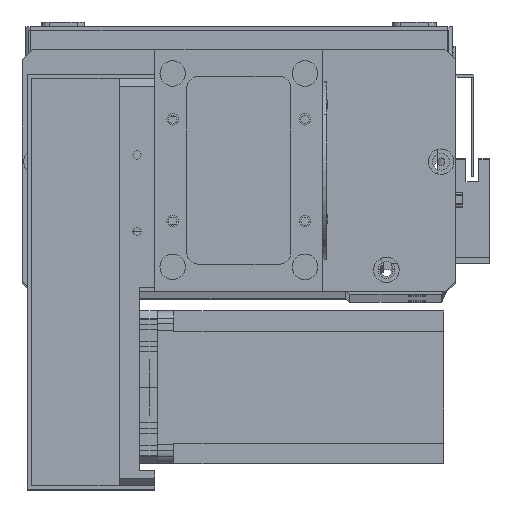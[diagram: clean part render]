
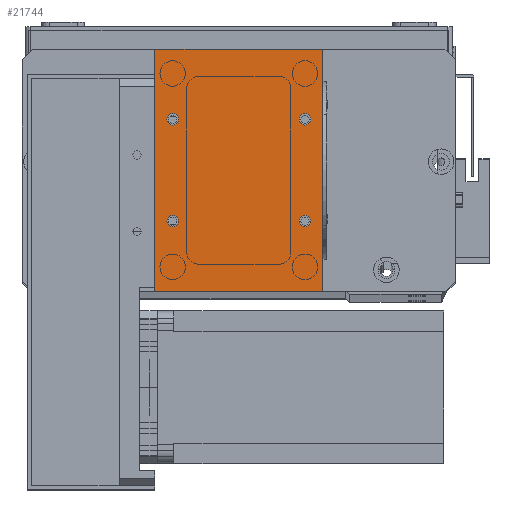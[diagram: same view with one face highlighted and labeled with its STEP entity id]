
A CAD part, top view. The second image highlights one B-rep face of the part: STEP entity #21744.
In plain terms, the highlighted planar face has unit normal (0, 0, 1).
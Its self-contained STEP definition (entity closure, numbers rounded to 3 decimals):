
#283 = CARTESIAN_POINT ( 'NONE',  ( 59., 67.5, 2. ) ) ;
#423 = ORIENTED_EDGE ( 'NONE', *, *, #30435, .F. ) ;
#766 = CARTESIAN_POINT ( 'NONE',  ( 66., 0., 2. ) ) ;
#845 = EDGE_CURVE ( 'NONE', #31968, #20353, #9542, .T. ) ;
#1021 = CARTESIAN_POINT ( 'NONE',  ( 59., 67.5, 2. ) ) ;
#1065 = CARTESIAN_POINT ( 'NONE',  ( 0., 0., 2. ) ) ;
#1559 = FACE_BOUND ( 'NONE', #3196, .T. ) ;
#1714 = DIRECTION ( 'NONE',  ( 0., 0., 1. ) ) ;
#1971 = CIRCLE ( 'NONE', #9169, 2.25 ) ;
#2863 = DIRECTION ( 'NONE',  ( 1., 0., 0. ) ) ;
#3196 = EDGE_LOOP ( 'NONE', ( #26375, #6046 ) ) ;
#3609 = DIRECTION ( 'NONE',  ( 1., 0., 0. ) ) ;
#3845 = EDGE_LOOP ( 'NONE', ( #22446, #8114, #23048, #13356 ) ) ;
#3899 = VERTEX_POINT ( 'NONE', #27298 ) ;
#4150 = VERTEX_POINT ( 'NONE', #25750 ) ;
#4294 = CARTESIAN_POINT ( 'NONE',  ( 59., 27.5, 2. ) ) ;
#4573 = PLANE ( 'NONE',  #10014 ) ;
#5170 = EDGE_CURVE ( 'NONE', #9193, #28450, #29111, .T. ) ;
#5553 = CARTESIAN_POINT ( 'NONE',  ( 66., 0., 2. ) ) ;
#5652 = AXIS2_PLACEMENT_3D ( 'NONE', #13536, #31377, #16114 ) ;
#6035 = CARTESIAN_POINT ( 'NONE',  ( 0., 0., 2. ) ) ;
#6046 = ORIENTED_EDGE ( 'NONE', *, *, #15937, .F. ) ;
#6151 = CARTESIAN_POINT ( 'NONE',  ( 61.25, 27.5, 2. ) ) ;
#6631 = DIRECTION ( 'NONE',  ( -1., 0., 0. ) ) ;
#6827 = DIRECTION ( 'NONE',  ( 1., 0., 0. ) ) ;
#6842 = EDGE_LOOP ( 'NONE', ( #15163, #423 ) ) ;
#7530 = FACE_OUTER_BOUND ( 'NONE', #3845, .T. ) ;
#7539 = DIRECTION ( 'NONE',  ( 0., 0., 1. ) ) ;
#8114 = ORIENTED_EDGE ( 'NONE', *, *, #27066, .T. ) ;
#8234 = VERTEX_POINT ( 'NONE', #5553 ) ;
#9169 = AXIS2_PLACEMENT_3D ( 'NONE', #11351, #29160, #13893 ) ;
#9193 = VERTEX_POINT ( 'NONE', #9718 ) ;
#9315 = VECTOR ( 'NONE', #15997, 1000. ) ;
#9503 = VERTEX_POINT ( 'NONE', #29532 ) ;
#9536 = EDGE_CURVE ( 'NONE', #25624, #25359, #21158, .T. ) ;
#9542 = CIRCLE ( 'NONE', #29007, 2.25 ) ;
#9685 = DIRECTION ( 'NONE',  ( 0., 0., -1. ) ) ;
#9718 = CARTESIAN_POINT ( 'NONE',  ( 66., 95., 2. ) ) ;
#10014 = AXIS2_PLACEMENT_3D ( 'NONE', #24810, #9685, #27484 ) ;
#11351 = CARTESIAN_POINT ( 'NONE',  ( 7., 67.5, 2. ) ) ;
#11475 = LINE ( 'NONE', #14336, #25856 ) ;
#11815 = ORIENTED_EDGE ( 'NONE', *, *, #31272, .F. ) ;
#12818 = CIRCLE ( 'NONE', #25498, 2.25 ) ;
#12863 = AXIS2_PLACEMENT_3D ( 'NONE', #16951, #1714, #19499 ) ;
#12988 = CARTESIAN_POINT ( 'NONE',  ( 7., 27.5, 2. ) ) ;
#13152 = ORIENTED_EDGE ( 'NONE', *, *, #15525, .F. ) ;
#13201 = ORIENTED_EDGE ( 'NONE', *, *, #31463, .F. ) ;
#13356 = ORIENTED_EDGE ( 'NONE', *, *, #5170, .T. ) ;
#13536 = CARTESIAN_POINT ( 'NONE',  ( 59., 27.5, 2. ) ) ;
#13893 = DIRECTION ( 'NONE',  ( 1., 0., 0. ) ) ;
#14260 = FACE_BOUND ( 'NONE', #27000, .T. ) ;
#14336 = CARTESIAN_POINT ( 'NONE',  ( 0., 0., 2. ) ) ;
#15163 = ORIENTED_EDGE ( 'NONE', *, *, #845, .F. ) ;
#15457 = AXIS2_PLACEMENT_3D ( 'NONE', #1021, #18837, #3609 ) ;
#15525 = EDGE_CURVE ( 'NONE', #25359, #25624, #17245, .T. ) ;
#15563 = DIRECTION ( 'NONE',  ( 1., 0., 0. ) ) ;
#15877 = FACE_BOUND ( 'NONE', #32660, .T. ) ;
#15937 = EDGE_CURVE ( 'NONE', #4150, #3899, #12818, .T. ) ;
#15997 = DIRECTION ( 'NONE',  ( 0., 1., 0. ) ) ;
#16114 = DIRECTION ( 'NONE',  ( 1., 0., 0. ) ) ;
#16951 = CARTESIAN_POINT ( 'NONE',  ( 7., 27.5, 2. ) ) ;
#17245 = CIRCLE ( 'NONE', #5652, 2.25 ) ;
#17319 = VERTEX_POINT ( 'NONE', #27699 ) ;
#17725 = LINE ( 'NONE', #6035, #23686 ) ;
#18096 = DIRECTION ( 'NONE',  ( 0., 0., 1. ) ) ;
#18316 = EDGE_CURVE ( 'NONE', #28450, #19422, #17725, .T. ) ;
#18370 = CARTESIAN_POINT ( 'NONE',  ( 9.25, 27.5, 2. ) ) ;
#18837 = DIRECTION ( 'NONE',  ( 0., 0., 1. ) ) ;
#18884 = EDGE_CURVE ( 'NONE', #8234, #9193, #29619, .T. ) ;
#19422 = VERTEX_POINT ( 'NONE', #1065 ) ;
#19499 = DIRECTION ( 'NONE',  ( 1., 0., 0. ) ) ;
#19747 = CARTESIAN_POINT ( 'NONE',  ( 0., 95., 2. ) ) ;
#20353 = VERTEX_POINT ( 'NONE', #28987 ) ;
#20897 = ORIENTED_EDGE ( 'NONE', *, *, #9536, .F. ) ;
#21148 = CARTESIAN_POINT ( 'NONE',  ( 56.75, 27.5, 2. ) ) ;
#21158 = CIRCLE ( 'NONE', #23517, 2.25 ) ;
#21212 = AXIS2_PLACEMENT_3D ( 'NONE', #283, #18096, #2863 ) ;
#21283 = DIRECTION ( 'NONE',  ( 0., -1., 0. ) ) ;
#21744 = ADVANCED_FACE ( 'NONE', ( #1559, #14260, #15877, #27837, #7530 ), #4573, .F. ) ;
#22098 = DIRECTION ( 'NONE',  ( 0., 0., 1. ) ) ;
#22446 = ORIENTED_EDGE ( 'NONE', *, *, #18316, .T. ) ;
#22804 = CARTESIAN_POINT ( 'NONE',  ( 7., 67.5, 2. ) ) ;
#23048 = ORIENTED_EDGE ( 'NONE', *, *, #18884, .T. ) ;
#23426 = CIRCLE ( 'NONE', #15457, 2.25 ) ;
#23517 = AXIS2_PLACEMENT_3D ( 'NONE', #4294, #22098, #6827 ) ;
#23686 = VECTOR ( 'NONE', #21283, 1000. ) ;
#24254 = CIRCLE ( 'NONE', #12863, 2.25 ) ;
#24810 = CARTESIAN_POINT ( 'NONE',  ( 0., 0., 2. ) ) ;
#25359 = VERTEX_POINT ( 'NONE', #6151 ) ;
#25365 = DIRECTION ( 'NONE',  ( 1., 0., 0. ) ) ;
#25498 = AXIS2_PLACEMENT_3D ( 'NONE', #22804, #7539, #25365 ) ;
#25624 = VERTEX_POINT ( 'NONE', #21148 ) ;
#25750 = CARTESIAN_POINT ( 'NONE',  ( 4.75, 67.5, 2. ) ) ;
#25856 = VECTOR ( 'NONE', #29610, 1000. ) ;
#26375 = ORIENTED_EDGE ( 'NONE', *, *, #26937, .F. ) ;
#26937 = EDGE_CURVE ( 'NONE', #3899, #4150, #1971, .T. ) ;
#27000 = EDGE_LOOP ( 'NONE', ( #13201, #11815 ) ) ;
#27066 = EDGE_CURVE ( 'NONE', #19422, #8234, #11475, .T. ) ;
#27298 = CARTESIAN_POINT ( 'NONE',  ( 9.25, 67.5, 2. ) ) ;
#27484 = DIRECTION ( 'NONE',  ( -1., 0., 0. ) ) ;
#27699 = CARTESIAN_POINT ( 'NONE',  ( 56.75, 67.5, 2. ) ) ;
#27837 = FACE_BOUND ( 'NONE', #6842, .T. ) ;
#28325 = VECTOR ( 'NONE', #6631, 1000. ) ;
#28450 = VERTEX_POINT ( 'NONE', #19747 ) ;
#28984 = CIRCLE ( 'NONE', #21212, 2.25 ) ;
#28987 = CARTESIAN_POINT ( 'NONE',  ( 4.75, 27.5, 2. ) ) ;
#29007 = AXIS2_PLACEMENT_3D ( 'NONE', #12988, #30836, #15563 ) ;
#29111 = LINE ( 'NONE', #29442, #28325 ) ;
#29160 = DIRECTION ( 'NONE',  ( 0., 0., 1. ) ) ;
#29442 = CARTESIAN_POINT ( 'NONE',  ( 0., 95., 2. ) ) ;
#29532 = CARTESIAN_POINT ( 'NONE',  ( 61.25, 67.5, 2. ) ) ;
#29610 = DIRECTION ( 'NONE',  ( 1., 0., 0. ) ) ;
#29619 = LINE ( 'NONE', #766, #9315 ) ;
#30435 = EDGE_CURVE ( 'NONE', #20353, #31968, #24254, .T. ) ;
#30836 = DIRECTION ( 'NONE',  ( 0., 0., 1. ) ) ;
#31272 = EDGE_CURVE ( 'NONE', #17319, #9503, #28984, .T. ) ;
#31377 = DIRECTION ( 'NONE',  ( 0., 0., 1. ) ) ;
#31463 = EDGE_CURVE ( 'NONE', #9503, #17319, #23426, .T. ) ;
#31968 = VERTEX_POINT ( 'NONE', #18370 ) ;
#32660 = EDGE_LOOP ( 'NONE', ( #13152, #20897 ) ) ;
